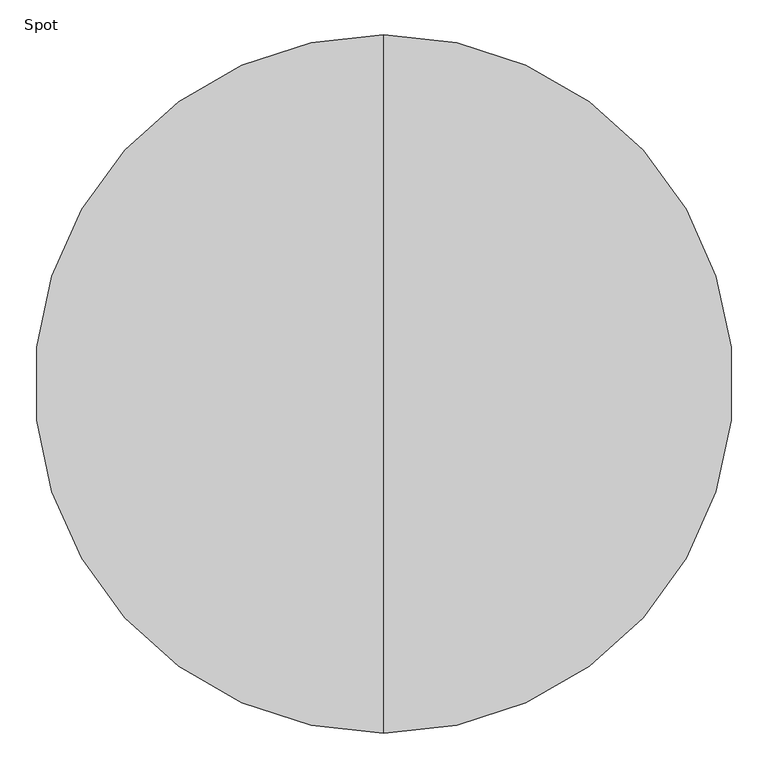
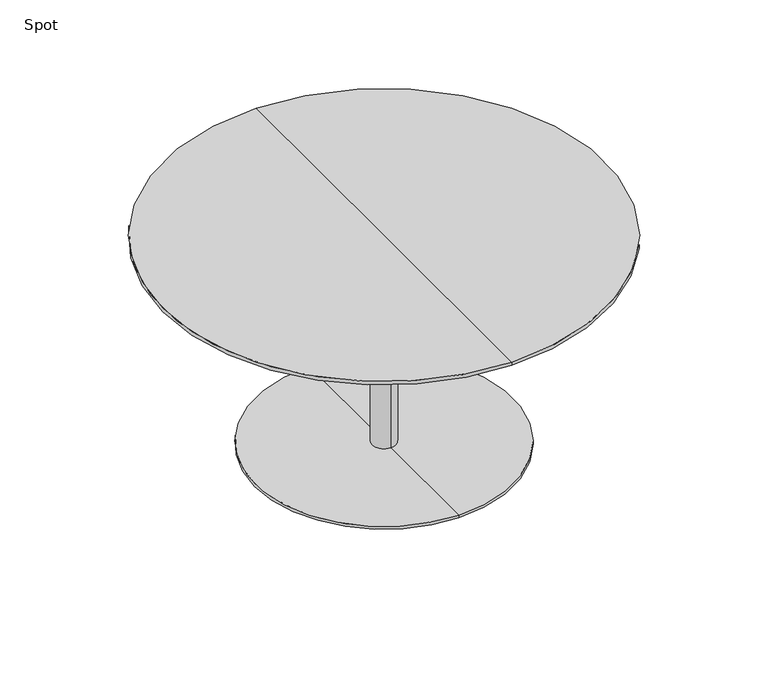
"""IFC4 building model written with IfcOpenShell, lengths in millimetres: furniture geometry, Spot : Bø120x60."""

from ifc_helpers import new_model, si_unit, frame, origin, place, context, project, spatial, polyline, circle_curve, source, transform, mapped, element, save
from ifc_brep_helpers import plane_surface, cylinder_surface, revolved_surface, advanced_brep


def spot_ff8b2383(model_context):
    return source(origin(), model_context, "Body", "AdvancedBrep", [
        advanced_brep(
        [(0.0, -600.0, 600.0), (0.0, 600.0, 600.0), (0.0, 0.0, 600.0), (0.0, 600.0, 590.25), (0.0, -600.0, 590.25), (0.0, 0.0, 578.0), (0.0, -554.2823776, 578.0), (0.0, 554.2823776, 578.0)],
        [
            (0, 1, circle_curve(frame((0.0, 0.0, 600.0), z_axis=(0.0, 0.0, 1.0), x_axis=(0.0, -1.0, 0.0)), 600.0)),
            (1, 2),
            (2, 0),
            (3, 4, circle_curve(frame((0.0, 0.0, 590.25), z_axis=(0.0, 0.0, 1.0), x_axis=(0.0, -1.0, 0.0)), 600.0)),
            (4, 0),
            (0, 1, circle_curve(frame((0.0, 0.0, 600.0), z_axis=(0.0, 0.0, -1.0), x_axis=(0.0, -1.0, 0.0)), 600.0)),
            (1, 3),
            (5, 6),
            (6, 7, circle_curve(frame((0.0, 0.0, 578.0), z_axis=(0.0, 0.0, -1.0), x_axis=(0.0, -1.0, 0.0)), 554.2823776)),
            (7, 5),
            (7, 6, circle_curve(frame((0.0, 0.0, 578.0), z_axis=(0.0, 0.0, -1.0), x_axis=(0.0, -1.0, 0.0)), 554.2823776)),
            (4, 3, circle_curve(frame((0.0, 0.0, 590.25), z_axis=(0.0, 0.0, 1.0), x_axis=(0.0, -1.0, 0.0)), 600.0)),
            (6, 4),
            (3, 7),
        ],
        [
            plane_surface(frame((0.0, 0.0, 600.0), z_axis=(0.0, 0.0, 1.0), x_axis=(0.0, -1.0, 0.0))),
            cylinder_surface(frame((0.0, 0.0, 680.0), z_axis=(0.0, 0.0, -1.0), x_axis=(0.0, -1.0, 0.0)), 600.0),
            plane_surface(frame((0.0, 0.0, 578.0), z_axis=(0.0, 0.0, -1.0), x_axis=(0.0, -1.0, 0.0))),
            revolved_surface(polyline([(0.0, -600.0, 590.25), (0.0, -554.2823776, 578.0)]), (0.0, 0.0, 680.0), (0.0, 0.0, -1.0)),
        ],
        [
            (0, [[1, 2, 3]]),
            (1, [[4, 5, 6, 7]]),
            (2, [[8, 9, 10]]),
            (2, [[-10, 11, -8]]),
            (0, [[-6, -3, -2]]),
            (1, [[12, -7, -1, -5]]),
            (3, [[-9, 13, -4, 14]]),
            (3, [[-11, -14, -12, -13]]),
        ],
    ),
        advanced_brep(
        [(0.0, 32.0, 10.0), (0.0, -32.0, 10.0), (0.0, -32.0, 547.406916), (0.0, 32.0, 547.406916), (0.0, 350.0, 10.0), (0.0, -350.0, 10.0), (0.0, 350.0, 2.0), (0.0, -350.0, 2.0), (0.0, 0.0, 2.0), (0.0, 150.0, 578.0), (0.0, -150.0, 578.0), (0.0, 0.0, 578.0), (0.0, 150.0, 566.7213673), (0.0, -150.0, 566.7213673)],
        [
            (0, 1, circle_curve(frame((0.0, 0.0, 10.0), z_axis=(0.0, 0.0, 1.0), x_axis=(0.0, -1.0, 0.0)), 32.0)),
            (1, 2),
            (2, 3, circle_curve(frame((0.0, 0.0, 547.406916), z_axis=(0.0, 0.0, -1.0), x_axis=(0.0, -1.0, 0.0)), 32.0)),
            (3, 0),
            (1, 0, circle_curve(frame((0.0, 0.0, 10.0), z_axis=(0.0, 0.0, 1.0), x_axis=(0.0, -1.0, 0.0)), 32.0)),
            (3, 2, circle_curve(frame((0.0, 0.0, 547.406916), z_axis=(0.0, 0.0, -1.0), x_axis=(0.0, -1.0, 0.0)), 32.0)),
            (4, 5, circle_curve(frame((0.0, 0.0, 10.0), z_axis=(0.0, 0.0, 1.0), x_axis=(0.0, -1.0, 0.0)), 350.0)),
            (5, 1),
            (0, 4),
            (5, 4, circle_curve(frame((0.0, 0.0, 10.0), z_axis=(0.0, 0.0, 1.0), x_axis=(0.0, -1.0, 0.0)), 350.0)),
            (6, 7, circle_curve(frame((0.0, 0.0, 2.0), z_axis=(0.0, 0.0, 1.0), x_axis=(0.0, -1.0, 0.0)), 350.0)),
            (7, 5),
            (4, 6),
            (7, 6, circle_curve(frame((0.0, 0.0, 2.0), z_axis=(0.0, 0.0, 1.0), x_axis=(0.0, -1.0, 0.0)), 350.0)),
            (8, 7),
            (6, 8),
            (9, 10, circle_curve(frame((0.0, 0.0, 578.0), z_axis=(0.0, 0.0, 1.0), x_axis=(0.0, -1.0, 0.0)), 150.0)),
            (10, 11),
            (11, 9),
            (10, 9, circle_curve(frame((0.0, 0.0, 578.0), z_axis=(0.0, 0.0, 1.0), x_axis=(0.0, -1.0, 0.0)), 150.0)),
            (12, 13, circle_curve(frame((0.0, 0.0, 566.7213673), z_axis=(0.0, 0.0, 1.0), x_axis=(0.0, -1.0, 0.0)), 150.0)),
            (13, 10),
            (9, 12),
            (13, 12, circle_curve(frame((0.0, 0.0, 566.7213673), z_axis=(0.0, 0.0, 1.0), x_axis=(0.0, -1.0, 0.0)), 150.0)),
            (2, 13),
            (12, 3),
        ],
        [
            cylinder_surface(frame((0.0, 0.0, 940.0), z_axis=(0.0, 0.0, -1.0), x_axis=(0.0, -1.0, 0.0)), 32.0),
            plane_surface(frame((0.0, 0.0, 10.0), z_axis=(0.0, 0.0, 1.0), x_axis=(0.0, -1.0, 0.0))),
            cylinder_surface(frame((0.0, 0.0, 940.0), z_axis=(0.0, 0.0, -1.0), x_axis=(0.0, -1.0, 0.0)), 350.0),
            plane_surface(frame((0.0, 0.0, 2.0), z_axis=(0.0, 0.0, -1.0), x_axis=(0.0, -1.0, 0.0))),
            plane_surface(frame((0.0, 0.0, 578.0), z_axis=(0.0, 0.0, 1.0), x_axis=(0.0, -1.0, 0.0))),
            cylinder_surface(frame((0.0, 0.0, 940.0), z_axis=(0.0, 0.0, -1.0), x_axis=(0.0, -1.0, 0.0)), 150.0),
            revolved_surface(polyline([(0.0, -150.0, 566.7213673), (0.0, -32.0, 547.406916)]), (0.0, 0.0, 940.0), (0.0, 0.0, -1.0)),
        ],
        [
            (0, [[1, 2, 3, 4]]),
            (0, [[5, -4, 6, -2]]),
            (1, [[7, 8, -1, 9]]),
            (1, [[10, -9, -5, -8]]),
            (2, [[11, 12, -7, 13]]),
            (2, [[14, -13, -10, -12]]),
            (3, [[15, -11, 16]]),
            (3, [[-16, -14, -15]]),
            (4, [[17, 18, 19]]),
            (4, [[20, -19, -18]]),
            (5, [[21, 22, -17, 23]]),
            (5, [[24, -23, -20, -22]]),
            (6, [[-3, 25, -21, 26]]),
            (6, [[-6, -26, -24, -25]]),
        ],
    ),
    ])


if __name__ == "__main__":
    model = new_model("IFC4")
    model_context = context("Model", 3, world=origin())
    ifc_project = project(units=[si_unit("LENGTHUNIT", "METRE", prefix="MILLI")], contexts=[model_context])
    site = spatial("IfcSite", under=ifc_project)
    building = spatial("IfcBuilding", under=site)
    placement = place(None, origin())
    spot_shape = spot_ff8b2383(model_context)
    element("IfcFurniture", 1, ObjectType="Spot : Bø120x60", at=placement, inside=building, context=model_context, shape_type="MappedRepresentation", body=[
        mapped(spot_shape, transform((0.0, 0.0, 0.0), x_axis=(1.0, 0.0, 0.0), y_axis=(0.0, 1.0, 0.0), z_axis=(0.0, 0.0, 1.0))),
    ])
    save(model, "model.ifc")
